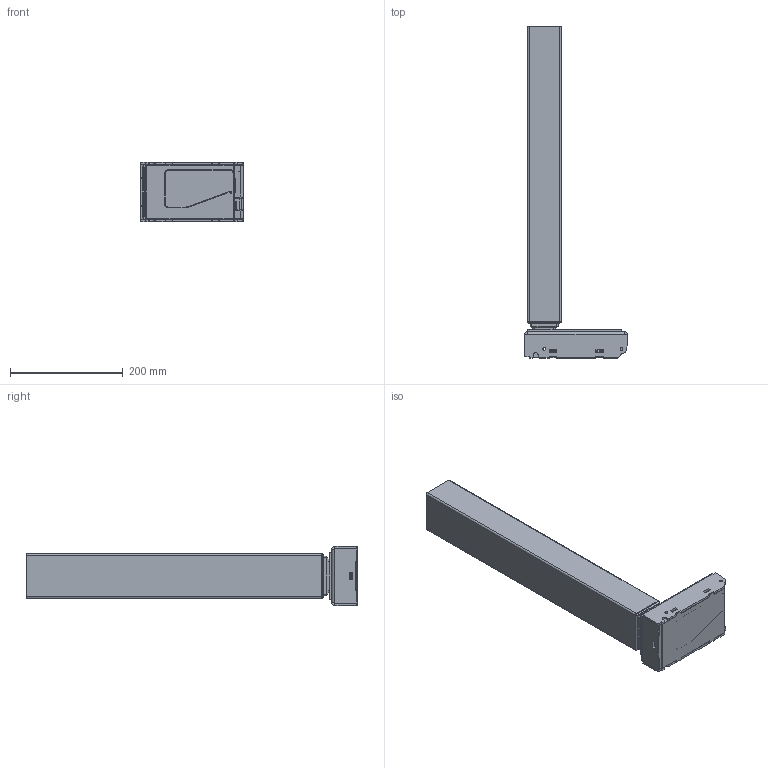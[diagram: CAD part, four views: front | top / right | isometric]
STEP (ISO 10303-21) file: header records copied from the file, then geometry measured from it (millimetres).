
FILE_DESCRIPTION (( 'STEP AP203' ), '1' );
FILE_NAME ('3D_TFL10.STEP', '2024-04-16T07:51:03', ( '' ), ( '' ), 'SwSTEP 2.0', 'SolidWorks 2015', '' );
FILE_SCHEMA (( 'CONFIG_CONTROL_DESIGN' ));
Products named in the file (2): 3D_TFL10
Bounding box: 183 x 590 x 105 mm (x, y, z)
Volume: 986924.3 mm3; surface area: 902912.2 mm2
Topology: 9 solids, 9 shells, 2393 faces, 6338 edges, 3896 vertices
Faces by surface type: plane 1236, cylinder 731, cone 214, bspline 161, torus 29, sphere 22
Entity records: 79376 total; most frequent: CARTESIAN_POINT 20788, ORIENTED_EDGE 12654, DIRECTION 11548, EDGE_CURVE 6327, LINE 4258, VECTOR 4258, VERTEX_POINT 3896, AXIS2_PLACEMENT_3D 3645
